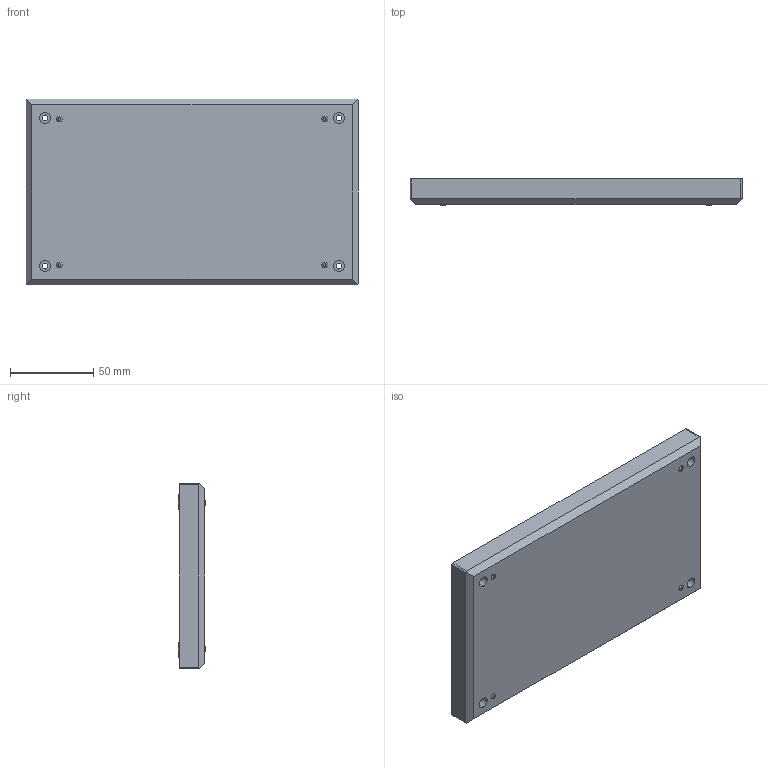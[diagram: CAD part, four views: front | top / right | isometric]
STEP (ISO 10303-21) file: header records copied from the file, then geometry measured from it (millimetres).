
FILE_DESCRIPTION (( 'STEP AP214' ), '1' );
FILE_NAME ('Cuerpo PP60A.STEP', '2016-10-09T14:14:00', ( 'aaa' ), ( '' ), 'SwSTEP 2.0', 'SolidWorks 2013', '' );
FILE_SCHEMA (( 'AUTOMOTIVE_DESIGN' ));
Length unit declared in the file: millimetre
Products named in the file (1): Cuerpo PP60A
Bounding box: 200 x 16.65 x 112 mm (x, y, z)
Volume: 130897.8 mm3; surface area: 64320 mm2
Topology: 1 solids, 1 shells, 131 faces, 284 edges, 188 vertices
Faces by surface type: cylinder 64, plane 59, torus 8
Entity records: 3684 total; most frequent: DIRECTION 688, CARTESIAN_POINT 628, ORIENTED_EDGE 568, EDGE_CURVE 284, AXIS2_PLACEMENT_3D 280, VERTEX_POINT 188, EDGE_LOOP 172, CIRCLE 148
